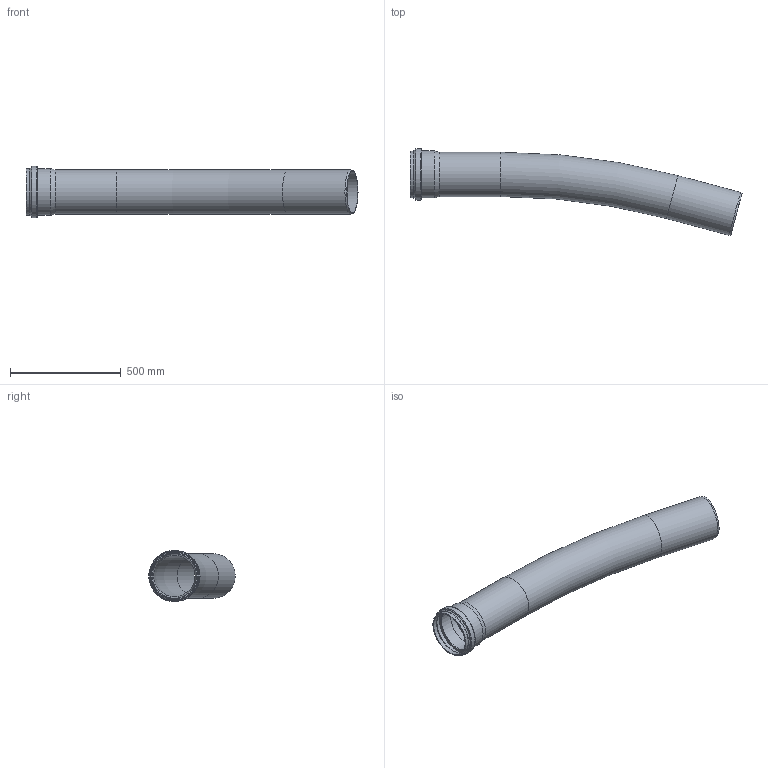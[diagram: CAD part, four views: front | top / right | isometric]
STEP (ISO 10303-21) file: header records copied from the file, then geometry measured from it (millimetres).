
FILE_DESCRIPTION(/* description */ (''),/* implementation_level */ '2;1');
FILE_NAME(/* name */ '734170z.stp',/* time_stamp */ '2026-05-08T11:19:12+02:00',/* author */ ('corinna'),/* organization */ (''),/* preprocessor_version */ 'ST-DEVELOPER v20',/* originating_system */ 'Autodesk Inventor 2024',/* authorisation */ '');
FILE_SCHEMA (('AUTOMOTIVE_DESIGN { 1 0 10303 214 3 1 1 }'));
Length unit declared in the file: millimetre
Products named in the file (1): 734170z
Bounding box: 1498.56 x 390.04 x 231.3 mm (x, y, z)
Volume: 5644697.4 mm3; surface area: 1856649.5 mm2
Topology: 1 solids, 1 shells, 41 faces, 100 edges, 65 vertices
Faces by surface type: torus 16, cylinder 11, cone 8, plane 6
Full cylindrical faces by diameter (mm): 187.6 x2, 200 x2, 200.8 x1, 201 x2, 210.4 x1, 212 x1, 221.9 x1, 231.3 x1
Entity records: 1302 total; most frequent: DIRECTION 265, CARTESIAN_POINT 207, ORIENTED_EDGE 200, AXIS2_PLACEMENT_3D 123, EDGE_CURVE 100, CIRCLE 81, VERTEX_POINT 65, EDGE_LOOP 47
